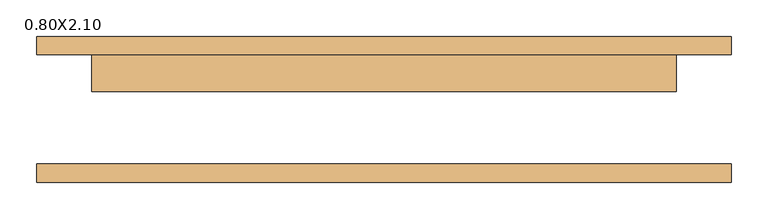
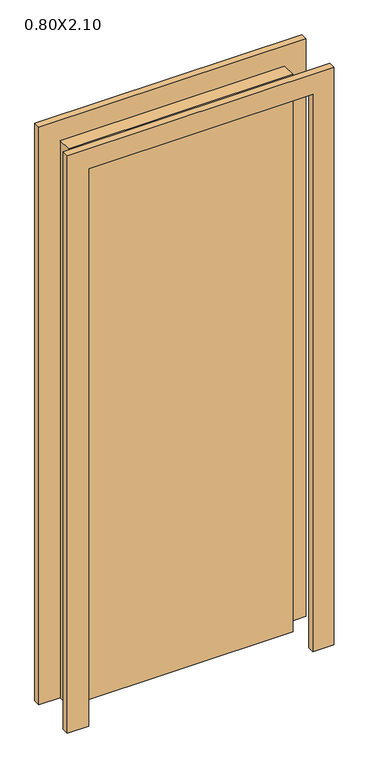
"""IFC4 building model written with IfcOpenShell, lengths in millimetres: door geometry, M_Folha única : 0.80X2.10."""

from ifc_helpers import new_model, si_unit, frame, origin, origin_with_axes, place, context, project, spatial, polyline, outline, extrude, source, transform, mapped, element, save


def door_0_80x2_10_905e31af(model_context):
    return source(origin(), model_context, "Body", "SweptSolid", [
        extrude(outline(polyline([(2176.0, -476.0), (0.0, -476.0), (0.0, -400.0), (2100.0, -400.0), (2100.0, 400.0), (0.0, 400.0), (0.0, 476.0), (2176.0, 476.0), (2176.0, -476.0)])), frame((0.0, 75.0, 0.0), z_axis=(0.0, 1.0, 0.0), x_axis=(0.0, 0.0, 1.0)), (0.0, 0.0, 1.0), 25.0),
        extrude(outline(polyline([(2176.0, 476.0), (2176.0, -476.0), (0.0, -476.0), (0.0, -400.0), (2100.0, -400.0), (2100.0, 400.0), (0.0, 400.0), (0.0, 476.0), (2176.0, 476.0)])), frame((0.0, -100.0, 0.0), z_axis=(0.0, 1.0, 0.0), x_axis=(0.0, 0.0, 1.0)), (0.0, 0.0, 1.0), 25.0),
        extrude(outline(polyline([(400.0, 24.0), (-400.0, 24.0), (-400.0, 75.0), (400.0, 75.0), (400.0, 24.0)])), origin_with_axes(), (0.0, 0.0, 1.0), 2100.0),
    ])


if __name__ == "__main__":
    model = new_model("IFC4")
    model_context = context("Model", 3, world=origin())
    ifc_project = project(units=[si_unit("LENGTHUNIT", "METRE", prefix="MILLI")], contexts=[model_context])
    site = spatial("IfcSite", under=ifc_project)
    building = spatial("IfcBuilding", under=site)
    placement = place(None, origin())
    door_0_80x2_10_shape = door_0_80x2_10_905e31af(model_context)
    element("IfcDoor", 1, ObjectType="M_Folha única : 0.80X2.10", at=placement, inside=building, context=model_context, shape_type="MappedRepresentation", body=[
        mapped(door_0_80x2_10_shape, transform((0.0, 0.0, 0.0), x_axis=(1.0, 0.0, 0.0), y_axis=(0.0, 1.0, 0.0), z_axis=(0.0, 0.0, 1.0))),
    ])
    save(model, "model.ifc")
